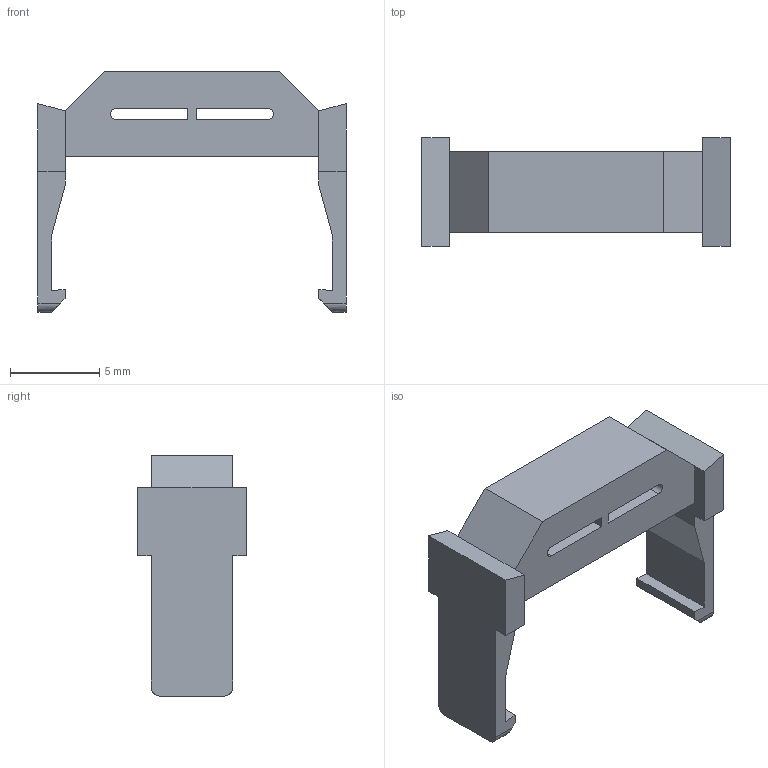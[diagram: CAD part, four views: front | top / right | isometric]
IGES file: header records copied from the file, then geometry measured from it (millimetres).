
Start section: Comment
Global section: file name: 3448-89110_se.igs; native system:  By Spatial Corp. IGES DAT; preprocessor: XIGES V1.0; author: Author; organization: Title; date: 20060314.105335; units: metre
Bounding box: 17.27 x 6.1 x 13.46 mm (x, y, z)
Surface area: 645.6 mm2 (no closed solid volume)
Topology: 0 solids, 0 shells, 48 faces, 268 edges, 268 vertices
Faces by surface type: extrusion 42, revolution 6
